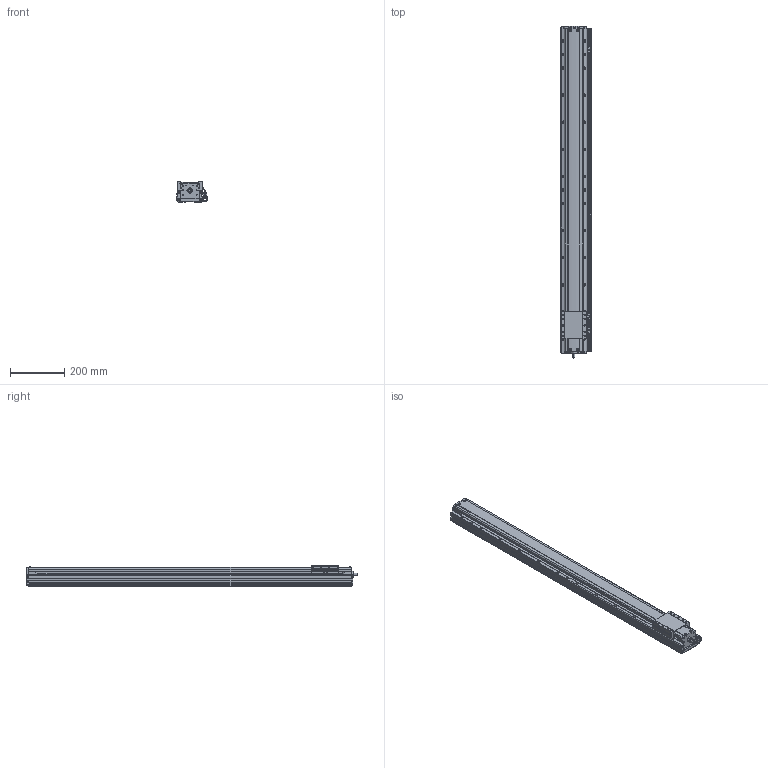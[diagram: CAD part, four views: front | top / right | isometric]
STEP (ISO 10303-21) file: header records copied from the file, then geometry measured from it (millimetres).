
FILE_DESCRIPTION(('STEP AP214'),'1');
FILE_NAME('Z:/Web/3D/PSA95/STP/PSA95-1000 (3D)/PSA95ㅁㅁ-1000+3SR.stp','2014-07-03T01:01:28',(' '),(' '),'Spatial InterOp 3D',' ',' ');
FILE_SCHEMA(('automotive_design'));
Length unit declared in the file: millimetre
Products named in the file (36): BASE; RRCV; 스크루 : Round - M4.0 x 10.0; 너트 : Square - M10.0 x 220.7419; RR1500; FRCV-090; 스크루 : Round - M4.0 x 6.0; SLBL-PA90; EE-SX674; SBK-SX674-352; 스크루 : Round - M3.0 x 6.0; M3.0 x 6.0; SRL-16x17-380L; SGD-PA95; 스크루 : Round - M3.0 x 8.0
Bounding box: 111 x 1226 x 74 mm (x, y, z)
Volume: 6543599.6 mm3; surface area: 755873.9 mm2
Topology: 36 solids, 36 shells, 2392 faces, 6418 edges, 4118 vertices
Faces by surface type: plane 1372, cylinder 711, cone 221, sphere 50, bspline 24, torus 14
Entity records: 96361 total; most frequent: CARTESIAN_POINT 16163, DIRECTION 12694, ORIENTED_EDGE 12556, EDGE_CURVE 6278, LINE 4288, VECTOR 4288, AXIS2_PLACEMENT_3D 4203, VERTEX_POINT 4118
